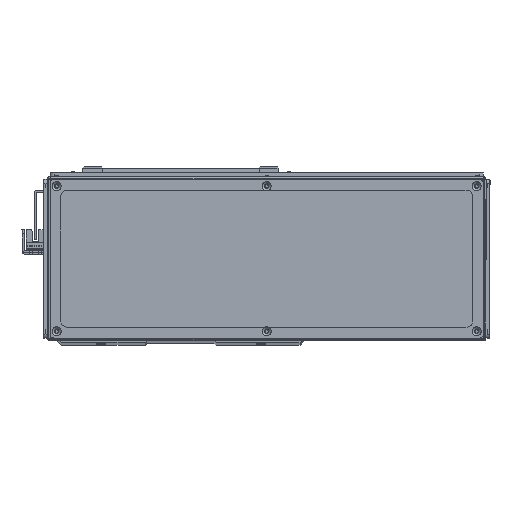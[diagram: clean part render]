
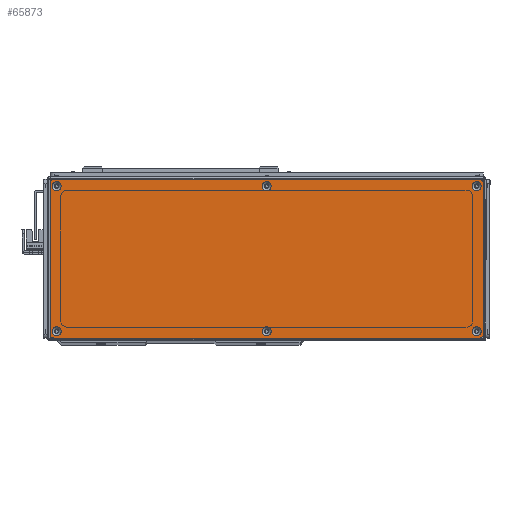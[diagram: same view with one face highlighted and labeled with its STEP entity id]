
A CAD part, top view. The second image highlights one B-rep face of the part: STEP entity #65873.
In plain terms, the highlighted planar face has unit normal (0, 0, 1) as drawn and (0, -1, 0) by its records, which use the part's own axes.
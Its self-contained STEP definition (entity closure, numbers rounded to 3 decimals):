
#1164=FACE_BOUND('',#9796,.T.);
#1165=FACE_BOUND('',#9797,.T.);
#1166=FACE_BOUND('',#9798,.T.);
#1167=FACE_BOUND('',#9799,.T.);
#1168=FACE_BOUND('',#9800,.T.);
#1169=FACE_BOUND('',#9801,.T.);
#1984=PLANE('',#70970);
#5930=FACE_OUTER_BOUND('',#9795,.T.);
#9795=EDGE_LOOP('',(#51601,#51602,#51603,#51604,#51605,#51606,#51607,#51608));
#9796=EDGE_LOOP('',(#51609));
#9797=EDGE_LOOP('',(#51610));
#9798=EDGE_LOOP('',(#51611));
#9799=EDGE_LOOP('',(#51612));
#9800=EDGE_LOOP('',(#51613));
#9801=EDGE_LOOP('',(#51614));
#14255=LINE('',#98915,#22099);
#14256=LINE('',#98919,#22100);
#14257=LINE('',#98923,#22101);
#14258=LINE('',#98926,#22102);
#22099=VECTOR('',#80353,10.);
#22100=VECTOR('',#80356,10.);
#22101=VECTOR('',#80359,10.);
#22102=VECTOR('',#80362,10.);
#29053=CIRCLE('',#70938,3.45);
#29056=CIRCLE('',#70943,3.45);
#29059=CIRCLE('',#70948,3.45);
#29062=CIRCLE('',#70953,3.45);
#29065=CIRCLE('',#70958,3.45);
#29068=CIRCLE('',#70963,3.45);
#29071=CIRCLE('',#70968,3.);
#29073=CIRCLE('',#70971,3.);
#29074=CIRCLE('',#70972,3.);
#29075=CIRCLE('',#70973,3.);
#31557=VERTEX_POINT('',#98845);
#31560=VERTEX_POINT('',#98855);
#31563=VERTEX_POINT('',#98865);
#31566=VERTEX_POINT('',#98875);
#31569=VERTEX_POINT('',#98885);
#31572=VERTEX_POINT('',#98895);
#31575=VERTEX_POINT('',#98905);
#31576=VERTEX_POINT('',#98906);
#31579=VERTEX_POINT('',#98914);
#31580=VERTEX_POINT('',#98916);
#31581=VERTEX_POINT('',#98918);
#31582=VERTEX_POINT('',#98920);
#31583=VERTEX_POINT('',#98922);
#31584=VERTEX_POINT('',#98924);
#38928=EDGE_CURVE('',#31557,#31557,#29053,.T.);
#38933=EDGE_CURVE('',#31560,#31560,#29056,.T.);
#38938=EDGE_CURVE('',#31563,#31563,#29059,.T.);
#38943=EDGE_CURVE('',#31566,#31566,#29062,.T.);
#38948=EDGE_CURVE('',#31569,#31569,#29065,.T.);
#38953=EDGE_CURVE('',#31572,#31572,#29068,.T.);
#38958=EDGE_CURVE('',#31575,#31576,#29071,.T.);
#38962=EDGE_CURVE('',#31575,#31579,#14255,.T.);
#38963=EDGE_CURVE('',#31580,#31579,#29073,.T.);
#38964=EDGE_CURVE('',#31580,#31581,#14256,.T.);
#38965=EDGE_CURVE('',#31582,#31581,#29074,.T.);
#38966=EDGE_CURVE('',#31582,#31583,#14257,.T.);
#38967=EDGE_CURVE('',#31584,#31583,#29075,.T.);
#38968=EDGE_CURVE('',#31584,#31576,#14258,.T.);
#51601=ORIENTED_EDGE('',*,*,#38958,.F.);
#51602=ORIENTED_EDGE('',*,*,#38962,.T.);
#51603=ORIENTED_EDGE('',*,*,#38963,.F.);
#51604=ORIENTED_EDGE('',*,*,#38964,.T.);
#51605=ORIENTED_EDGE('',*,*,#38965,.F.);
#51606=ORIENTED_EDGE('',*,*,#38966,.T.);
#51607=ORIENTED_EDGE('',*,*,#38967,.F.);
#51608=ORIENTED_EDGE('',*,*,#38968,.T.);
#51609=ORIENTED_EDGE('',*,*,#38928,.T.);
#51610=ORIENTED_EDGE('',*,*,#38933,.T.);
#51611=ORIENTED_EDGE('',*,*,#38938,.T.);
#51612=ORIENTED_EDGE('',*,*,#38943,.T.);
#51613=ORIENTED_EDGE('',*,*,#38948,.T.);
#51614=ORIENTED_EDGE('',*,*,#38953,.T.);
#65873=ADVANCED_FACE('',(#5930,#1164,#1165,#1166,#1167,#1168,#1169),#1984,
 .T.);
#70938=AXIS2_PLACEMENT_3D('',#98846,#80273,#80274);
#70943=AXIS2_PLACEMENT_3D('',#98856,#80285,#80286);
#70948=AXIS2_PLACEMENT_3D('',#98866,#80297,#80298);
#70953=AXIS2_PLACEMENT_3D('',#98876,#80309,#80310);
#70958=AXIS2_PLACEMENT_3D('',#98886,#80321,#80322);
#70963=AXIS2_PLACEMENT_3D('',#98896,#80333,#80334);
#70968=AXIS2_PLACEMENT_3D('',#98907,#80345,#80346);
#70970=AXIS2_PLACEMENT_3D('',#98913,#80351,#80352);
#70971=AXIS2_PLACEMENT_3D('',#98917,#80354,#80355);
#70972=AXIS2_PLACEMENT_3D('',#98921,#80357,#80358);
#70973=AXIS2_PLACEMENT_3D('',#98925,#80360,#80361);
#80273=DIRECTION('center_axis',(0.,1.,0.));
#80274=DIRECTION('ref_axis',(1.,0.,0.));
#80285=DIRECTION('center_axis',(0.,1.,0.));
#80286=DIRECTION('ref_axis',(1.,0.,0.));
#80297=DIRECTION('center_axis',(0.,1.,0.));
#80298=DIRECTION('ref_axis',(1.,0.,0.));
#80309=DIRECTION('center_axis',(0.,1.,0.));
#80310=DIRECTION('ref_axis',(1.,0.,0.));
#80321=DIRECTION('center_axis',(0.,1.,0.));
#80322=DIRECTION('ref_axis',(1.,0.,0.));
#80333=DIRECTION('center_axis',(0.,1.,0.));
#80334=DIRECTION('ref_axis',(1.,0.,0.));
#80345=DIRECTION('center_axis',(0.,1.,0.));
#80346=DIRECTION('ref_axis',(-0.707,0.,0.707));
#80351=DIRECTION('center_axis',(0.,-1.,0.));
#80352=DIRECTION('ref_axis',(0.,0.,-1.));
#80353=DIRECTION('',(0.,0.,-1.));
#80354=DIRECTION('center_axis',(0.,1.,0.));
#80355=DIRECTION('ref_axis',(-0.707,0.,-0.707));
#80356=DIRECTION('',(1.,0.,0.));
#80357=DIRECTION('center_axis',(0.,1.,0.));
#80358=DIRECTION('ref_axis',(0.707,0.,-0.707));
#80359=DIRECTION('',(0.,0.,1.));
#80360=DIRECTION('center_axis',(0.,1.,0.));
#80361=DIRECTION('ref_axis',(0.707,0.,0.707));
#80362=DIRECTION('',(-1.,0.,0.));
#98845=CARTESIAN_POINT('',(154.05,-1.5,54.5));
#98846=CARTESIAN_POINT('Origin',(157.5,-1.5,54.5));
#98855=CARTESIAN_POINT('',(-3.45,-1.5,54.5));
#98856=CARTESIAN_POINT('Origin',(0.,-1.5,54.5));
#98865=CARTESIAN_POINT('',(-160.95,-1.5,54.5));
#98866=CARTESIAN_POINT('Origin',(-157.5,-1.5,54.5));
#98875=CARTESIAN_POINT('',(-160.95,-1.5,-54.5));
#98876=CARTESIAN_POINT('Origin',(-157.5,-1.5,-54.5));
#98885=CARTESIAN_POINT('',(-3.45,-1.5,-54.5));
#98886=CARTESIAN_POINT('Origin',(0.,-1.5,-54.5));
#98895=CARTESIAN_POINT('',(154.05,-1.5,-54.5));
#98896=CARTESIAN_POINT('Origin',(157.5,-1.5,-54.5));
#98905=CARTESIAN_POINT('',(-162.5,-1.5,56.5));
#98906=CARTESIAN_POINT('',(-159.5,-1.5,59.5));
#98907=CARTESIAN_POINT('Origin',(-159.5,-1.5,56.5));
#98913=CARTESIAN_POINT('Origin',(0.,-1.5,0.));
#98914=CARTESIAN_POINT('',(-162.5,-1.5,-56.5));
#98915=CARTESIAN_POINT('',(-162.5,-1.5,59.5));
#98916=CARTESIAN_POINT('',(-159.5,-1.5,-59.5));
#98917=CARTESIAN_POINT('Origin',(-159.5,-1.5,-56.5));
#98918=CARTESIAN_POINT('',(159.5,-1.5,-59.5));
#98919=CARTESIAN_POINT('',(-162.5,-1.5,-59.5));
#98920=CARTESIAN_POINT('',(162.5,-1.5,-56.5));
#98921=CARTESIAN_POINT('Origin',(159.5,-1.5,-56.5));
#98922=CARTESIAN_POINT('',(162.5,-1.5,56.5));
#98923=CARTESIAN_POINT('',(162.5,-1.5,-59.5));
#98924=CARTESIAN_POINT('',(159.5,-1.5,59.5));
#98925=CARTESIAN_POINT('Origin',(159.5,-1.5,56.5));
#98926=CARTESIAN_POINT('',(162.5,-1.5,59.5));
